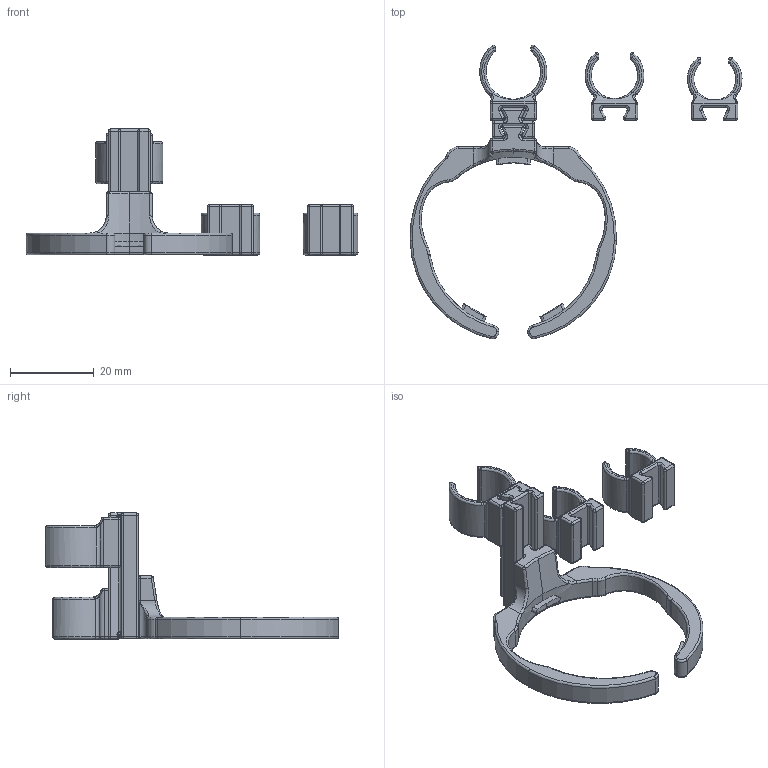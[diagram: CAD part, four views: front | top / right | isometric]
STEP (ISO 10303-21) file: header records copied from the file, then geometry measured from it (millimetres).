
FILE_DESCRIPTION(/* description */ (''),/* implementation_level */ '2;1');
FILE_NAME(/* name */ 'Ari Pen Holder.step',/* time_stamp */ '2025-08-19T12:35:27-07:00',/* author */ (''),/* organization */ (''),/* preprocessor_version */ 'ST-DEVELOPER v20.1',/* originating_system */ 'Autodesk Translation Framework v14.10.0.0',/* authorisation */ '');
FILE_SCHEMA (('AUTOMOTIVE_DESIGN { 1 0 10303 214 3 1 1 }'));
Length unit declared in the file: millimetre
Products named in the file (8): Ari Pen Holder; Arms; Evo Pen Holder; Rear Clip; Riser (1); 9mm Pen Holder; 13mm Pen Holder; 11mm Pen Holder
Assembly tree (7 placements, depth 4):
  Ari Pen Holder
    Arms
      Evo Pen Holder
        Rear Clip
        Riser (1)
        9mm Pen Holder
        13mm Pen Holder
        11mm Pen Holder
Bounding box: 79.09 x 69.85 x 30.02 mm (x, y, z)
Volume: 7087.6 mm3; surface area: 7340.2 mm2
Topology: 5 solids, 5 shells, 610 faces, 1341 edges, 731 vertices
Faces by surface type: cylinder 211, bspline 129, torus 113, plane 75, sphere 70, cone 12
Entity records: 21748 total; most frequent: CARTESIAN_POINT 8594, DIRECTION 2794, ORIENTED_EDGE 2658, EDGE_CURVE 1329, AXIS2_PLACEMENT_3D 1209, VERTEX_POINT 731, CIRCLE 676, EDGE_LOOP 612
